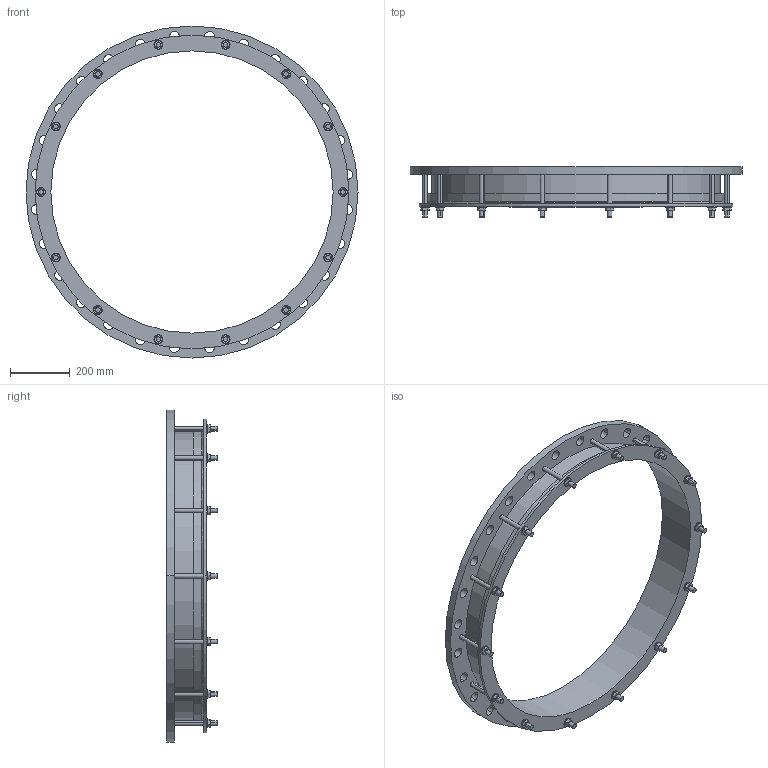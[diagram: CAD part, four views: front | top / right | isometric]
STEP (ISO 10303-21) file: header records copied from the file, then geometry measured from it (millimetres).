
FILE_DESCRIPTION((''),'2;1');
FILE_NAME('945X900PN10','2019-01-17T',('mfairey'),('Glynwed Pipe Systems'),'CREO PARAMETRIC BY PTC INC, 2016130','CREO PARAMETRIC BY PTC INC, 2016130','');
FILE_SCHEMA(('CONFIG_CONTROL_DESIGN'));
Length unit declared in the file: millimetre
Products named in the file (1): 945X900PN10
Bounding box: 1115 x 169 x 1115 mm (x, y, z)
Volume: 12915716.2 mm3; surface area: 1733329.3 mm2
Topology: 1 solids, 1 shells, 284 faces, 752 edges, 500 vertices
Faces by surface type: cylinder 148, plane 130, cone 4, torus 2
Entity records: 10022 total; most frequent: CARTESIAN_POINT 2576, DIRECTION 1548, ORIENTED_EDGE 1504, EDGE_CURVE 752, AXIS2_PLACEMENT_3D 572, VERTEX_POINT 500, VECTOR 404, LINE 404
